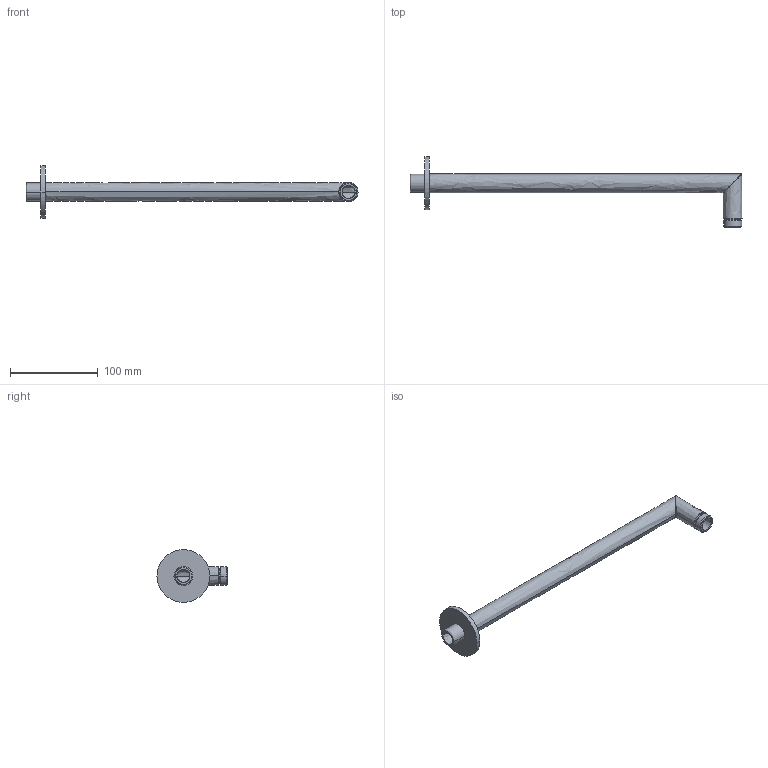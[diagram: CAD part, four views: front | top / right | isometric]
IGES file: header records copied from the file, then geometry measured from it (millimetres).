
Start section:  PTC IGES file: 89930.igs
Global section: file name: 89930.igs; native system: Creo Parametric by PTC Inc.; preprocessor: 2022014; author: carloff; organization: Unknown; date: 20230921.153118; units: millimetre
Bounding box: 377.65 x 79.65 x 60 mm (x, y, z)
Surface area: 54028 mm2 (no closed solid volume)
Topology: 0 solids, 0 shells, 34 faces, 140 edges, 140 vertices
Faces by surface type: revolution 24, bspline 10
